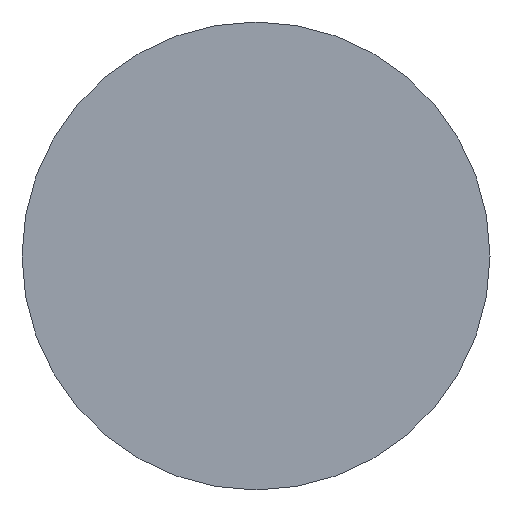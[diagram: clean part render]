
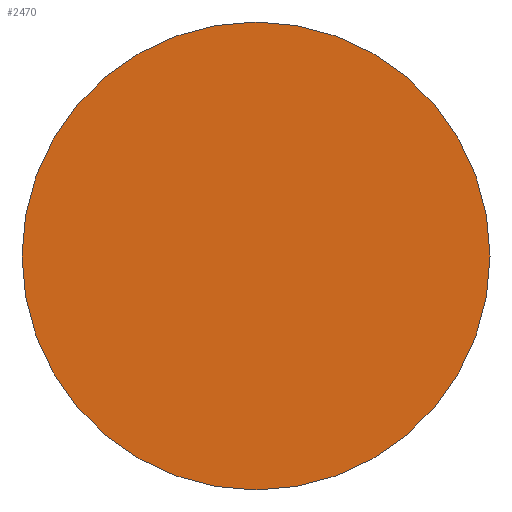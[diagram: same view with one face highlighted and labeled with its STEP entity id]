
A CAD part, front view. The second image highlights one B-rep face of the part: STEP entity #2470.
In plain terms, the highlighted planar face has unit normal (0, -1, 0).
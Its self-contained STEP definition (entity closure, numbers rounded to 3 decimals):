
#141 = EDGE_CURVE ( 'NONE', #2594, #3052, #3615, .T. ) ;
#799 = AXIS2_PLACEMENT_3D ( 'NONE', #3725, #2778, #3338 ) ;
#858 = DIRECTION ( 'NONE',  ( 1., 0., 0. ) ) ;
#906 = FACE_OUTER_BOUND ( 'NONE', #1292, .T. ) ;
#921 = CIRCLE ( 'NONE', #3007, 20. ) ;
#932 = CARTESIAN_POINT ( 'NONE',  ( 0., -16., 0. ) ) ;
#1292 = EDGE_LOOP ( 'NONE', ( #1464, #1425 ) ) ;
#1425 = ORIENTED_EDGE ( 'NONE', *, *, #1593, .T. ) ;
#1464 = ORIENTED_EDGE ( 'NONE', *, *, #141, .T. ) ;
#1481 = CARTESIAN_POINT ( 'NONE',  ( 20., -16., 0. ) ) ;
#1593 = EDGE_CURVE ( 'NONE', #3052, #2594, #921, .T. ) ;
#1951 = CARTESIAN_POINT ( 'NONE',  ( -20., -16., 0. ) ) ;
#2249 = CARTESIAN_POINT ( 'NONE',  ( 20., -16., 0. ) ) ;
#2470 = ADVANCED_FACE ( 'NONE', ( #906 ), #3629, .T. ) ;
#2594 = VERTEX_POINT ( 'NONE', #2249 ) ;
#2778 = DIRECTION ( 'NONE',  ( 0., -1., 0. ) ) ;
#2807 = DIRECTION ( 'NONE',  ( 0., -1., 0. ) ) ;
#3007 = AXIS2_PLACEMENT_3D ( 'NONE', #932, #2807, #3394 ) ;
#3052 = VERTEX_POINT ( 'NONE', #1951 ) ;
#3338 = DIRECTION ( 'NONE',  ( 1., 0., 0. ) ) ;
#3394 = DIRECTION ( 'NONE',  ( 1., 0., 0. ) ) ;
#3404 = DIRECTION ( 'NONE',  ( 0., -1., 0. ) ) ;
#3615 = CIRCLE ( 'NONE', #799, 20. ) ;
#3620 = AXIS2_PLACEMENT_3D ( 'NONE', #1481, #3404, #858 ) ;
#3629 = PLANE ( 'NONE',  #3620 ) ;
#3725 = CARTESIAN_POINT ( 'NONE',  ( 0., -16., 0. ) ) ;
